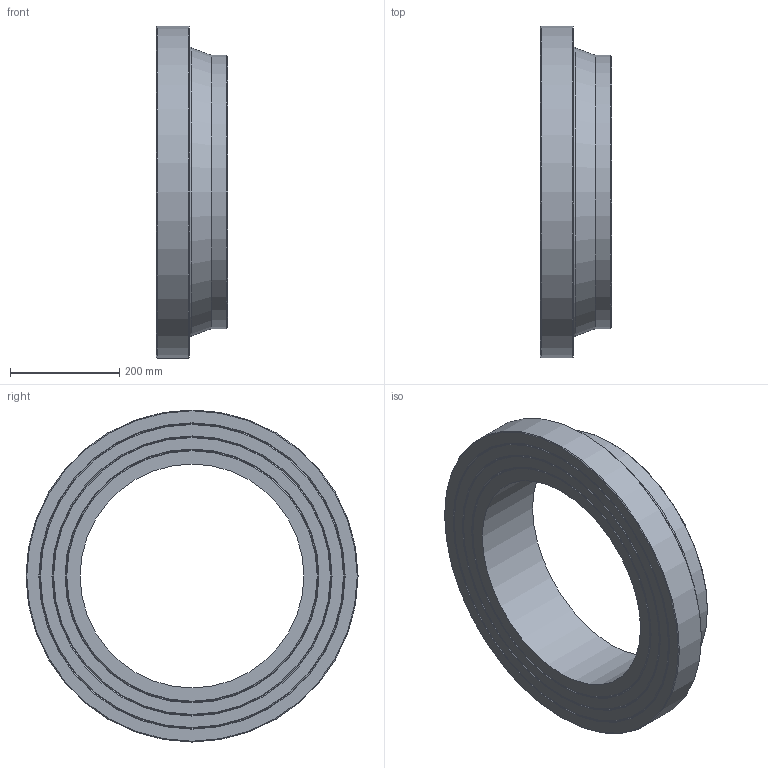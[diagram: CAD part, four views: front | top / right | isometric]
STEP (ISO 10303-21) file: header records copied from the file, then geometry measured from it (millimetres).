
FILE_DESCRIPTION(/* description */ ('Unknown'),/* implementation_level */ '2;1');
FILE_NAME(/* name */ 'CCP500C',/* time_stamp */ '2022-04-04T15:23:55+02:00',/* author */ ('Unknown'),/* organization */ ('Unknown'),/* preprocessor_version */ 'ST-DEVELOPER v18.1',/* originating_system */ 'Solid Edge',/* authorisation */ 'Unknown');
FILE_SCHEMA (('AUTOMOTIVE_DESIGN {1 0 10303 214 3 1 1}'));
Length unit declared in the file: millimetre
Products named in the file (1): CCP500C
Bounding box: 130 x 607 x 607 mm (x, y, z)
Volume: 14479623.1 mm3; surface area: 685305.9 mm2
Topology: 1 solids, 1 shells, 20 faces, 35 edges, 21 vertices
Faces by surface type: cone 10, plane 6, cylinder 3, torus 1
Full cylindrical faces by diameter (mm): 409.2 x1, 500 x1, 607 x1
Entity records: 438 total; most frequent: DIRECTION 82, CARTESIAN_POINT 61, AXIS2_PLACEMENT_3D 41, ORIENTED_EDGE 40, EDGE_LOOP 40, FACE_BOUND 40, EDGE_CURVE 20, VERTEX_POINT 20
